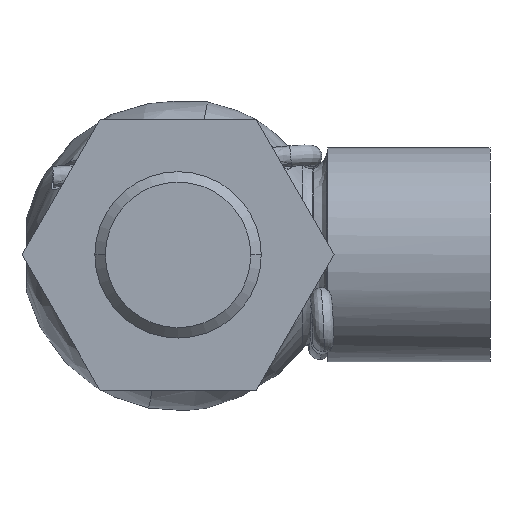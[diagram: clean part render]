
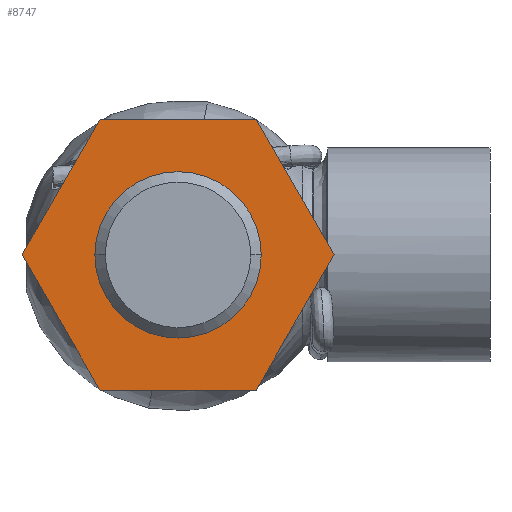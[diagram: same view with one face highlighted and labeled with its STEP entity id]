
A CAD part, front view. The second image highlights one B-rep face of the part: STEP entity #8747.
In plain terms, the highlighted planar face has unit normal (0, -1, 0).
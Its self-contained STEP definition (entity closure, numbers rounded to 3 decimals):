
#114 = ORIENTED_EDGE ( 'NONE', *, *, #6851, .T. ) ;
#706 = CARTESIAN_POINT ( 'NONE',  ( 4., -13.5, 0. ) ) ;
#900 = CARTESIAN_POINT ( 'NONE',  ( 3.753, -13.5, 6.5 ) ) ;
#1073 = VERTEX_POINT ( 'NONE', #6216 ) ;
#1177 = EDGE_CURVE ( 'NONE', #9056, #1692, #8542, .T. ) ;
#1288 = VERTEX_POINT ( 'NONE', #1931 ) ;
#1316 = DIRECTION ( 'NONE',  ( 0., 1., 0. ) ) ;
#1334 = VERTEX_POINT ( 'NONE', #3472 ) ;
#1424 = VERTEX_POINT ( 'NONE', #7644 ) ;
#1435 = VERTEX_POINT ( 'NONE', #6122 ) ;
#1459 = DIRECTION ( 'NONE',  ( 1., 0., 0. ) ) ;
#1692 = VERTEX_POINT ( 'NONE', #3453 ) ;
#1774 = EDGE_LOOP ( 'NONE', ( #4339, #5976, #4003, #114, #4568, #9627 ) ) ;
#1901 = AXIS2_PLACEMENT_3D ( 'NONE', #6547, #1999, #2762 ) ;
#1931 = CARTESIAN_POINT ( 'NONE',  ( -7.506, -13.5, 0. ) ) ;
#1963 = DIRECTION ( 'NONE',  ( 0., 1., 0. ) ) ;
#1999 = DIRECTION ( 'NONE',  ( 0., -1., 0. ) ) ;
#2000 = CARTESIAN_POINT ( 'NONE',  ( 3.753, -13.5, 6.5 ) ) ;
#2057 = VECTOR ( 'NONE', #3977, 1000. ) ;
#2074 = FACE_OUTER_BOUND ( 'NONE', #1774, .T. ) ;
#2298 = LINE ( 'NONE', #3299, #5876 ) ;
#2349 = EDGE_CURVE ( 'NONE', #1288, #1435, #4768, .T. ) ;
#2701 = PLANE ( 'NONE',  #1901 ) ;
#2717 = VECTOR ( 'NONE', #3732, 1000. ) ;
#2740 = EDGE_CURVE ( 'NONE', #9437, #1334, #3554, .T. ) ;
#2762 = DIRECTION ( 'NONE',  ( 1., 0., 0. ) ) ;
#2831 = VECTOR ( 'NONE', #5478, 1000. ) ;
#2919 = EDGE_CURVE ( 'NONE', #1073, #9437, #8993, .T. ) ;
#3299 = CARTESIAN_POINT ( 'NONE',  ( -3.753, -13.5, 6.5 ) ) ;
#3453 = CARTESIAN_POINT ( 'NONE',  ( -4., -13.5, 0. ) ) ;
#3472 = CARTESIAN_POINT ( 'NONE',  ( -3.753, -13.5, 6.5 ) ) ;
#3554 = LINE ( 'NONE', #2000, #8054 ) ;
#3732 = DIRECTION ( 'NONE',  ( -0.5, 0., 0.866 ) ) ;
#3776 = CARTESIAN_POINT ( 'NONE',  ( -3.753, -13.5, -6.5 ) ) ;
#3871 = CARTESIAN_POINT ( 'NONE',  ( 3.753, -13.5, -6.5 ) ) ;
#3977 = DIRECTION ( 'NONE',  ( 0.5, 0., 0.866 ) ) ;
#4003 = ORIENTED_EDGE ( 'NONE', *, *, #2740, .T. ) ;
#4125 = LINE ( 'NONE', #3871, #2057 ) ;
#4339 = ORIENTED_EDGE ( 'NONE', *, *, #6657, .T. ) ;
#4496 = CARTESIAN_POINT ( 'NONE',  ( 7.506, -13.5, 0. ) ) ;
#4568 = ORIENTED_EDGE ( 'NONE', *, *, #2349, .T. ) ;
#4767 = EDGE_CURVE ( 'NONE', #1692, #9056, #4830, .T. ) ;
#4768 = LINE ( 'NONE', #6258, #2831 ) ;
#4830 = CIRCLE ( 'NONE', #4895, 4. ) ;
#4895 = AXIS2_PLACEMENT_3D ( 'NONE', #5882, #1316, #6629 ) ;
#5101 = DIRECTION ( 'NONE',  ( -1., 0., 0. ) ) ;
#5296 = FACE_BOUND ( 'NONE', #8893, .T. ) ;
#5478 = DIRECTION ( 'NONE',  ( 0.5, 0., -0.866 ) ) ;
#5758 = DIRECTION ( 'NONE',  ( -1., 0., 0. ) ) ;
#5876 = VECTOR ( 'NONE', #9361, 1000. ) ;
#5882 = CARTESIAN_POINT ( 'NONE',  ( 0., -13.5, 0. ) ) ;
#5976 = ORIENTED_EDGE ( 'NONE', *, *, #2919, .T. ) ;
#6122 = CARTESIAN_POINT ( 'NONE',  ( -3.753, -13.5, -6.5 ) ) ;
#6216 = CARTESIAN_POINT ( 'NONE',  ( 7.506, -13.5, 0. ) ) ;
#6258 = CARTESIAN_POINT ( 'NONE',  ( -7.506, -13.5, 0. ) ) ;
#6365 = AXIS2_PLACEMENT_3D ( 'NONE', #8765, #1963, #5758 ) ;
#6547 = CARTESIAN_POINT ( 'NONE',  ( -4., -13.5, 0. ) ) ;
#6629 = DIRECTION ( 'NONE',  ( -1., 0., 0. ) ) ;
#6657 = EDGE_CURVE ( 'NONE', #1424, #1073, #4125, .T. ) ;
#6692 = LINE ( 'NONE', #3776, #6952 ) ;
#6851 = EDGE_CURVE ( 'NONE', #1334, #1288, #2298, .T. ) ;
#6952 = VECTOR ( 'NONE', #1459, 1000. ) ;
#7644 = CARTESIAN_POINT ( 'NONE',  ( 3.753, -13.5, -6.5 ) ) ;
#8054 = VECTOR ( 'NONE', #5101, 1000. ) ;
#8275 = EDGE_CURVE ( 'NONE', #1435, #1424, #6692, .T. ) ;
#8542 = CIRCLE ( 'NONE', #6365, 4. ) ;
#8730 = ORIENTED_EDGE ( 'NONE', *, *, #4767, .T. ) ;
#8747 = ADVANCED_FACE ( 'NONE', ( #5296, #2074 ), #2701, .T. ) ;
#8765 = CARTESIAN_POINT ( 'NONE',  ( 0., -13.5, 0. ) ) ;
#8892 = ORIENTED_EDGE ( 'NONE', *, *, #1177, .T. ) ;
#8893 = EDGE_LOOP ( 'NONE', ( #8730, #8892 ) ) ;
#8993 = LINE ( 'NONE', #4496, #2717 ) ;
#9056 = VERTEX_POINT ( 'NONE', #706 ) ;
#9361 = DIRECTION ( 'NONE',  ( -0.5, 0., -0.866 ) ) ;
#9437 = VERTEX_POINT ( 'NONE', #900 ) ;
#9627 = ORIENTED_EDGE ( 'NONE', *, *, #8275, .T. ) ;
